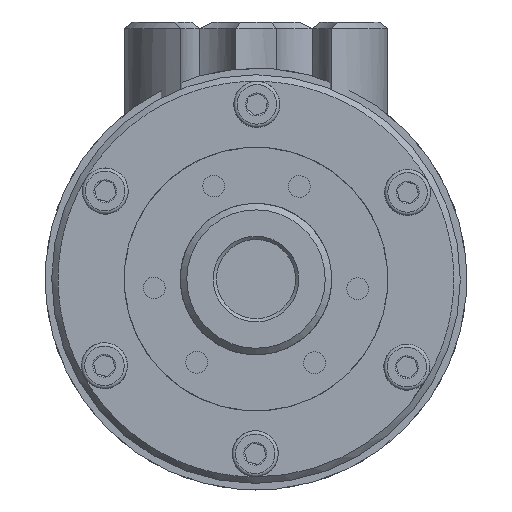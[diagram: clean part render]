
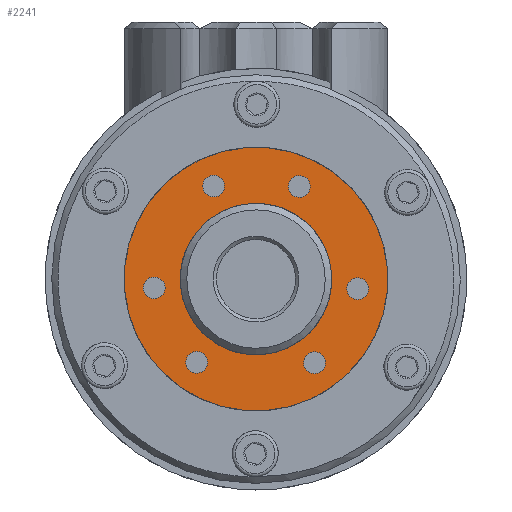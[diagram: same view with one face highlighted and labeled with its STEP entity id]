
A CAD part, left-side view. The second image highlights one B-rep face of the part: STEP entity #2241.
In plain terms, the highlighted planar face has unit normal (-1, 0, 0) as drawn and (0, -1, 0) by its records, which use the part's own axes.
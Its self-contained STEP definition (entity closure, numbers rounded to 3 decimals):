
#2241 = ADVANCED_FACE( '', ( #3757, #3758, #3759, #3760, #3761, #3762, #3763, #3764 ), #3765, .F. );
#3757 = FACE_OUTER_BOUND( '', #4798, .T. );
#3758 = FACE_BOUND( '', #4799, .T. );
#3759 = FACE_BOUND( '', #4800, .T. );
#3760 = FACE_BOUND( '', #4801, .T. );
#3761 = FACE_BOUND( '', #4802, .T. );
#3762 = FACE_BOUND( '', #4803, .T. );
#3763 = FACE_BOUND( '', #4804, .T. );
#3764 = FACE_BOUND( '', #4805, .T. );
#3765 = PLANE( '', #4806 );
#4798 = EDGE_LOOP( '', ( #7007 ) );
#4799 = EDGE_LOOP( '', ( #7008 ) );
#4800 = EDGE_LOOP( '', ( #7009 ) );
#4801 = EDGE_LOOP( '', ( #7010 ) );
#4802 = EDGE_LOOP( '', ( #7011 ) );
#4803 = EDGE_LOOP( '', ( #7012 ) );
#4804 = EDGE_LOOP( '', ( #7013 ) );
#4805 = EDGE_LOOP( '', ( #7014 ) );
#4806 = AXIS2_PLACEMENT_3D( '', #7015, #7016, #7017 );
#7007 = ORIENTED_EDGE( '', *, *, #8483, .T. );
#7008 = ORIENTED_EDGE( '', *, *, #8484, .F. );
#7009 = ORIENTED_EDGE( '', *, *, #8485, .F. );
#7010 = ORIENTED_EDGE( '', *, *, #8486, .F. );
#7011 = ORIENTED_EDGE( '', *, *, #8487, .F. );
#7012 = ORIENTED_EDGE( '', *, *, #8488, .F. );
#7013 = ORIENTED_EDGE( '', *, *, #8489, .F. );
#7014 = ORIENTED_EDGE( '', *, *, #8490, .F. );
#7015 = CARTESIAN_POINT( '', ( 0., 0., 20. ) );
#7016 = DIRECTION( '', ( 0., 1., 0. ) );
#7017 = DIRECTION( '', ( 1., 0., 0. ) );
#8483 = EDGE_CURVE( '', #9734, #9734, #9735, .T. );
#8484 = EDGE_CURVE( '', #9736, #9736, #9737, .T. );
#8485 = EDGE_CURVE( '', #9738, #9738, #9739, .T. );
#8486 = EDGE_CURVE( '', #9740, #9740, #9741, .T. );
#8487 = EDGE_CURVE( '', #9742, #9742, #9743, .T. );
#8488 = EDGE_CURVE( '', #9744, #9744, #9745, .T. );
#8489 = EDGE_CURVE( '', #9746, #9746, #9747, .T. );
#8490 = EDGE_CURVE( '', #9748, #9748, #9749, .T. );
#9734 = VERTEX_POINT( '', #11184 );
#9735 = CIRCLE( '', #11185, 20. );
#9736 = VERTEX_POINT( '', #11186 );
#9737 = CIRCLE( '', #11187, 1.65 );
#9738 = VERTEX_POINT( '', #11188 );
#9739 = CIRCLE( '', #11189, 1.65 );
#9740 = VERTEX_POINT( '', #11190 );
#9741 = CIRCLE( '', #11191, 1.65 );
#9742 = VERTEX_POINT( '', #11192 );
#9743 = CIRCLE( '', #11193, 1.65 );
#9744 = VERTEX_POINT( '', #11194 );
#9745 = CIRCLE( '', #11195, 1.65 );
#9746 = VERTEX_POINT( '', #11196 );
#9747 = CIRCLE( '', #11197, 1.65 );
#9748 = VERTEX_POINT( '', #11198 );
#9749 = CIRCLE( '', #11199, 11.5 );
#11184 = CARTESIAN_POINT( '', ( 0., 0., -20. ) );
#11185 = AXIS2_PLACEMENT_3D( '', #12121, #12122, #12123 );
#11186 = CARTESIAN_POINT( '', ( -6.021, 0., -13.174 ) );
#11187 = AXIS2_PLACEMENT_3D( '', #12124, #12125, #12126 );
#11188 = CARTESIAN_POINT( '', ( 6.925, 0., -11.994 ) );
#11189 = AXIS2_PLACEMENT_3D( '', #12127, #12128, #12129 );
#11190 = CARTESIAN_POINT( '', ( 14.42, 0., 1.372 ) );
#11191 = AXIS2_PLACEMENT_3D( '', #12130, #12131, #12132 );
#11192 = CARTESIAN_POINT( '', ( 6.925, 0., 11.994 ) );
#11193 = AXIS2_PLACEMENT_3D( '', #12133, #12134, #12135 );
#11194 = CARTESIAN_POINT( '', ( -8.398, 0., 11.802 ) );
#11195 = AXIS2_PLACEMENT_3D( '', #12136, #12137, #12138 );
#11196 = CARTESIAN_POINT( '', ( -13.85, 0., 0. ) );
#11197 = AXIS2_PLACEMENT_3D( '', #12139, #12140, #12141 );
#11198 = CARTESIAN_POINT( '', ( 0., 0., -11.5 ) );
#11199 = AXIS2_PLACEMENT_3D( '', #12142, #12143, #12144 );
#12121 = CARTESIAN_POINT( '', ( 0., 0., 0. ) );
#12122 = DIRECTION( '', ( 0., -1., 0. ) );
#12123 = DIRECTION( '', ( 0., 0., -1. ) );
#12124 = CARTESIAN_POINT( '', ( -5.196, 0., -14.603 ) );
#12125 = DIRECTION( '', ( 0., -1., 0. ) );
#12126 = DIRECTION( '', ( -0.5, 0., 0.866 ) );
#12127 = CARTESIAN_POINT( '', ( 7.75, 0., -13.423 ) );
#12128 = DIRECTION( '', ( 0., -1., 0. ) );
#12129 = DIRECTION( '', ( -0.5, 0., 0.866 ) );
#12130 = CARTESIAN_POINT( '', ( 15.245, 0., 2.801 ) );
#12131 = DIRECTION( '', ( 0., -1., 0. ) );
#12132 = DIRECTION( '', ( -0.5, 0., -0.866 ) );
#12133 = CARTESIAN_POINT( '', ( 7.75, 0., 13.423 ) );
#12134 = DIRECTION( '', ( 0., -1., 0. ) );
#12135 = DIRECTION( '', ( -0.5, 0., -0.866 ) );
#12136 = CARTESIAN_POINT( '', ( -10.048, 0., 11.802 ) );
#12137 = DIRECTION( '', ( 0., -1., 0. ) );
#12138 = DIRECTION( '', ( 1., 0., 0. ) );
#12139 = CARTESIAN_POINT( '', ( -15.5, 0., 0. ) );
#12140 = DIRECTION( '', ( 0., -1., 0. ) );
#12141 = DIRECTION( '', ( 1., 0., 0. ) );
#12142 = CARTESIAN_POINT( '', ( 0., 0., 0. ) );
#12143 = DIRECTION( '', ( 0., -1., 0. ) );
#12144 = DIRECTION( '', ( 0., 0., -1. ) );
